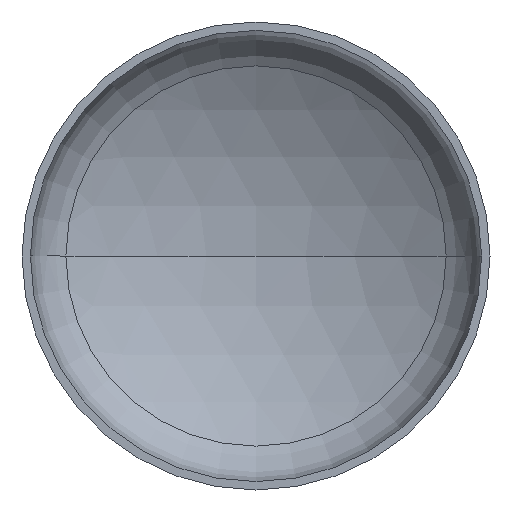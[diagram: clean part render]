
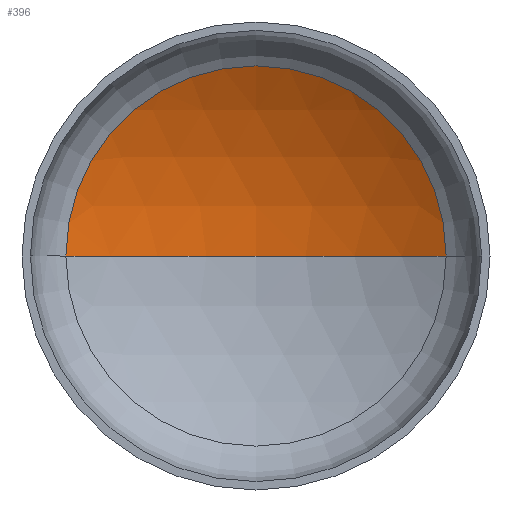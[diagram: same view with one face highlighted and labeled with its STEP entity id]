
A CAD part, front view. The second image highlights one B-rep face of the part: STEP entity #396.
In plain terms, the highlighted spherical face has radius 4000 mm.
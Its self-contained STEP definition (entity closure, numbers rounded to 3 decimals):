
#2 = VERTEX_POINT ( 'NONE', #36 ) ;
#14 = CARTESIAN_POINT ( 'NONE',  ( 2030.96, 763.363, 0. ) ) ;
#29 = AXIS2_PLACEMENT_3D ( 'NONE', #121, #116, #377 ) ;
#33 = AXIS2_PLACEMENT_3D ( 'NONE', #357, #89, #300 ) ;
#34 = AXIS2_PLACEMENT_3D ( 'NONE', #164, #51, #135 ) ;
#35 = VERTEX_POINT ( 'NONE', #14 ) ;
#36 = CARTESIAN_POINT ( 'NONE',  ( 0., 1317.321, 0. ) ) ;
#39 = ORIENTED_EDGE ( 'NONE', *, *, #109, .T. ) ;
#51 = DIRECTION ( 'NONE',  ( 0., -1., 0. ) ) ;
#73 = VERTEX_POINT ( 'NONE', #203 ) ;
#82 = ORIENTED_EDGE ( 'NONE', *, *, #110, .T. ) ;
#89 = DIRECTION ( 'NONE',  ( 0., 0., -1. ) ) ;
#90 = EDGE_LOOP ( 'NONE', ( #102, #82, #39 ) ) ;
#102 = ORIENTED_EDGE ( 'NONE', *, *, #111, .F. ) ;
#109 = EDGE_CURVE ( 'NONE', #35, #73, #383, .T. ) ;
#110 = EDGE_CURVE ( 'NONE', #2, #35, #313, .T. ) ;
#111 = EDGE_CURVE ( 'NONE', #2, #73, #239, .T. ) ;
#116 = DIRECTION ( 'NONE',  ( 0., 0., 1. ) ) ;
#121 = CARTESIAN_POINT ( 'NONE',  ( 0., -2682.679, 0. ) ) ;
#135 = DIRECTION ( 'NONE',  ( 1., 0., 0. ) ) ;
#164 = CARTESIAN_POINT ( 'NONE',  ( 0., 763.363, 0. ) ) ;
#179 = DIRECTION ( 'NONE',  ( 0., 0., -1. ) ) ;
#192 = SPHERICAL_SURFACE ( 'NONE', #367, 4000. ) ;
#203 = CARTESIAN_POINT ( 'NONE',  ( -2030.96, 763.363, 0. ) ) ;
#217 = CARTESIAN_POINT ( 'NONE',  ( 0., -2682.679, 0. ) ) ;
#239 = CIRCLE ( 'NONE', #29, 4000. ) ;
#300 = DIRECTION ( 'NONE',  ( -1., 0., 0. ) ) ;
#313 = CIRCLE ( 'NONE', #33, 4000. ) ;
#317 = FACE_OUTER_BOUND ( 'NONE', #90, .T. ) ;
#322 = DIRECTION ( 'NONE',  ( -1., 0., 0. ) ) ;
#357 = CARTESIAN_POINT ( 'NONE',  ( 0., -2682.679, 0. ) ) ;
#367 = AXIS2_PLACEMENT_3D ( 'NONE', #217, #179, #322 ) ;
#377 = DIRECTION ( 'NONE',  ( 1., 0., 0. ) ) ;
#383 = CIRCLE ( 'NONE', #34, 2030.96 ) ;
#396 = ADVANCED_FACE ( 'NONE', ( #317 ), #192, .F. ) ;
